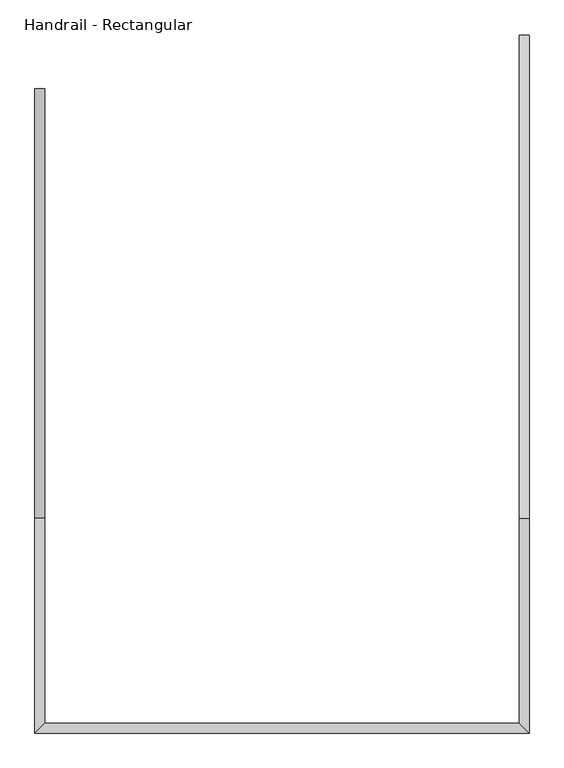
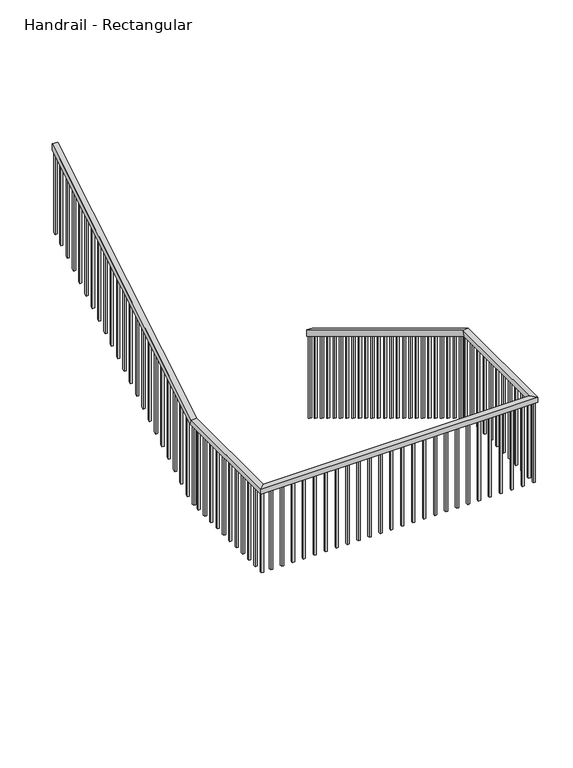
"""IFC4 building model written with IfcOpenShell, lengths in millimetres: railing geometry, Handrail - Rectangular."""

import ifcopenshell
import ifcopenshell.guid

model = None  # the IFC model being written
_history = None  # IfcOwnerHistory: only IFC2X3 demands one
_inside = {}  # id of a spatial element -> (the spatial element, [elements in it])
_under = {}  # id of a project, library or spatial element -> (it, [spatial elements below it])
_declared = {}  # id of a project -> (the project, [libraries it declares])
_typed = {}  # id of a type object -> (the type object, [elements of that type])
_made_of = {}  # id of a material, layer set ... -> (it, [elements and type objects made of it])


def new_model(schema):
    """Start an empty IFC model of exactly this schema.

    Asked for "IFC4X3", IfcOpenShell would pick the latest addendum, in which some entities
    have other attributes; the version numbers below select the first issue.
    IFC2X3 requires an IfcOwnerHistory on every rooted entity: one is made here for all.
    """
    global model, _history
    if schema == "IFC4X3":
        model = ifcopenshell.file(schema_version=(4, 3, 0, 0))
    else:
        model = ifcopenshell.file(schema=schema)
    _inside.clear()
    _under.clear()
    _declared.clear()
    _typed.clear()
    _made_of.clear()
    _history = None
    if model.schema == "IFC2X3":
        org = make("IfcOrganization", Name="unknown")
        user = make(
            "IfcPersonAndOrganization",
            ThePerson=make("IfcPerson", FamilyName="unknown"),
            TheOrganization=org,
        )
        app = make(
            "IfcApplication",
            ApplicationDeveloper=org,
            Version="unknown",
            ApplicationFullName="unknown",
            ApplicationIdentifier="unknown",
        )
        _history = make(
            "IfcOwnerHistory",
            OwningUser=user,
            OwningApplication=app,
            ChangeAction="ADDED",
            CreationDate=0,
        )
    return model


def make(cls, **values):
    """One entity of the class cls with the attributes given. An attribute that is None is left unset."""
    return model.create_entity(
        cls, **{name: value for name, value in values.items() if value is not None}
    )


def rooted(cls, **values):
    """An entity with a GlobalId (a new one), such as an element, a storey or a relation."""
    return make(cls, GlobalId=ifcopenshell.guid.new(), OwnerHistory=_history, **values)


def si_unit(unit_type, name, prefix=None):
    """IfcSIUnit, for example si_unit("LENGTHUNIT", "METRE", prefix="MILLI")."""
    return make("IfcSIUnit", UnitType=unit_type, Prefix=prefix, Name=name)


def assignment(units):
    """IfcUnitAssignment: the units of a project."""
    return None if units is None else make("IfcUnitAssignment", Units=units)


def point(xyz):
    """IfcCartesianPoint."""
    return None if xyz is None else make("IfcCartesianPoint", Coordinates=xyz)


def direction(xyz):
    """IfcDirection."""
    return None if xyz is None else make("IfcDirection", DirectionRatios=xyz)


def frame(location, z_axis=None, x_axis=None):
    """IfcAxis2Placement3D, a coordinate frame: its origin and axes. An axis left out is left unset."""
    return make(
        "IfcAxis2Placement3D",
        Location=point(location),
        Axis=direction(z_axis),
        RefDirection=direction(x_axis),
    )


def origin():
    """The frame at (0, 0, 0) with its axes left unset."""
    return frame((0.0, 0.0, 0.0))


def place(relative_to, where):
    """IfcLocalPlacement: puts the frame where relative to a parent placement (None: the world)."""
    return make(
        "IfcLocalPlacement", PlacementRelTo=relative_to, RelativePlacement=where
    )


def context(
    kind, dimensions, precision=None, world=None, true_north=None, identifier=None
):
    """IfcGeometricRepresentationContext, for example the 3D "Model" context."""
    return make(
        "IfcGeometricRepresentationContext",
        ContextIdentifier=identifier,
        ContextType=kind,
        CoordinateSpaceDimension=dimensions,
        Precision=precision,
        WorldCoordinateSystem=world,
        TrueNorth=true_north,
    )


def project(units=None, contexts=None):
    """IfcProject with its units and contexts."""
    return rooted(
        "IfcProject",
        Name="project",
        RepresentationContexts=contexts,
        UnitsInContext=assignment(units),
    )


def spatial(cls, under=None, at=None, **own):
    """A site, building, storey or space (cls), placed at a placement, below another one or the project."""
    s = rooted(cls, ObjectPlacement=at, **own)
    if under is not None:
        _under.setdefault(under.id(), (under, []))[1].append(s)
    return s


def polyline(points):
    """IfcPolyline through the points."""
    return make("IfcPolyline", Points=[point(p) for p in points])


def outline(outer, holes=None, kind="AREA"):
    """IfcArbitraryClosedProfileDef: a profile drawn as a closed curve; with holes, ...WithVoids."""
    if holes is None:
        return make("IfcArbitraryClosedProfileDef", ProfileType=kind, OuterCurve=outer)
    return make(
        "IfcArbitraryProfileDefWithVoids",
        ProfileType=kind,
        OuterCurve=outer,
        InnerCurves=holes,
    )


def extrude(swept, where, along, depth):
    """IfcExtrudedAreaSolid: the profile swept, set in the frame where, extruded along a direction by depth."""
    return make(
        "IfcExtrudedAreaSolid",
        SweptArea=swept,
        Position=where,
        ExtrudedDirection=direction(along),
        Depth=depth,
    )


def faces_of(points, faces, orient=None, outer=None):
    """IfcFace entities. A face is a list of loops; a loop is a list of indices into points, from 0.

    orient and outer hold one flag for each loop. By default every Orientation is true, the
    first loop of a face is its IfcFaceOuterBound and the others are IfcFaceBound.
    """
    made = []
    for i, loops in enumerate(faces):
        bounds = []
        for j, loop in enumerate(loops):
            is_outer = j == 0 if outer is None else outer[i][j]
            bounds.append(
                make(
                    "IfcFaceOuterBound" if is_outer else "IfcFaceBound",
                    Bound=make("IfcPolyLoop", Polygon=[points[k] for k in loop]),
                    Orientation=True if orient is None else orient[i][j],
                )
            )
        made.append(make("IfcFace", Bounds=bounds))
    return made


def faceted_brep(points, faces, orient=None, outer=None, voids=None):
    """IfcFacetedBrep: a solid bounded by flat faces; with voids (closed shells), ...WithVoids."""
    shared = [point(p) for p in points]
    hull = make("IfcClosedShell", CfsFaces=faces_of(shared, faces, orient, outer))
    if voids is None:
        return make("IfcFacetedBrep", Outer=hull)
    return make(
        "IfcFacetedBrepWithVoids",
        Outer=hull,
        Voids=[
            make(cls, CfsFaces=faces_of(shared, fs, o, b)) for cls, fs, o, b in voids
        ],
    )


def shape(context_of_items, identifier, shape_type, items):
    """IfcShapeRepresentation: the items that make up one representation, for example the "Body"."""
    return make(
        "IfcShapeRepresentation",
        ContextOfItems=context_of_items,
        RepresentationIdentifier=identifier,
        RepresentationType=shape_type,
        Items=items,
    )


def source(mapping_origin, context_of_items, identifier, shape_type, items):
    """IfcRepresentationMap: a shape defined once, which mapped items show again and again."""
    return make(
        "IfcRepresentationMap",
        MappingOrigin=mapping_origin,
        MappedRepresentation=shape(context_of_items, identifier, shape_type, items),
    )


def transform(
    local_origin,
    x_axis=None,
    y_axis=None,
    z_axis=None,
    scale=None,
    scale2=None,
    scale3=None,
    uniform=True,
):
    """IfcCartesianTransformationOperator3D, or its non-uniform kind. x_axis, y_axis, z_axis: its Axis1, 2, 3."""
    if uniform:
        return make(
            "IfcCartesianTransformationOperator3D",
            Axis1=direction(x_axis),
            Axis2=direction(y_axis),
            LocalOrigin=point(local_origin),
            Scale=scale,
            Axis3=direction(z_axis),
        )
    return make(
        "IfcCartesianTransformationOperator3DnonUniform",
        Axis1=direction(x_axis),
        Axis2=direction(y_axis),
        LocalOrigin=point(local_origin),
        Scale=scale,
        Axis3=direction(z_axis),
        Scale2=scale2,
        Scale3=scale3,
    )


def mapped(mapping_source, mapping_target):
    """IfcMappedItem: shows the shape of a source again, moved by a transform."""
    return make(
        "IfcMappedItem", MappingSource=mapping_source, MappingTarget=mapping_target
    )


def made_of(thing, what):
    """Note that an element or type object is made of a material, layer set ...; save() writes the relation."""
    if what is not None:
        _made_of.setdefault(what.id(), (what, []))[1].append(thing)
    return thing


def element(
    cls,
    number,
    at=None,
    inside=None,
    cuts=None,
    type_object=None,
    material=None,
    context=None,
    identifier="Body",
    shape_type=None,
    held_by="IfcProductDefinitionShape",
    body=None,
    shapes=None,
    **own,
):
    """One element of the class cls, such as IfcWall. Its Tag is "e" and its number.

    at: its placement. inside: the storey or other place that contains it. cuts: it is an
    opening in that element (IfcRelVoidsElement). A single representation is given by context,
    identifier, shape_type and body (its items); several are given by shapes. held_by: the class
    of the entity that holds the representations. save() writes the other relations.
    """
    e = rooted(cls, Tag="e%d" % number, ObjectPlacement=at, **own)
    if body is not None:
        shapes = [shape(context, identifier, shape_type, body)]
    if shapes is not None:
        e.Representation = make(held_by, Representations=shapes)
    if inside is not None:
        _inside.setdefault(inside.id(), (inside, []))[1].append(e)
    if cuts is not None:
        rooted(
            "IfcRelVoidsElement", RelatingBuildingElement=cuts, RelatedOpeningElement=e
        )
    if type_object is not None:
        _typed.setdefault(type_object.id(), (type_object, []))[1].append(e)
    return made_of(e, material)


def aggregate(whole, parts):
    """IfcRelAggregates: a whole, such as a stair, and the parts it consists of."""
    return rooted("IfcRelAggregates", RelatingObject=whole, RelatedObjects=parts)


def save(model, path):
    """Write the relations noted so far, then the file.

    IfcRelAggregates (storeys below a building ...), IfcRelContainedInSpatialStructure (elements
    in a storey), IfcRelDefinesByType, IfcRelAssociatesMaterial and IfcRelDeclares: one each for
    every whole, place, type object, material and project.
    """
    for whole, parts in _under.values():
        aggregate(whole, parts)
    for where, things in _inside.values():
        rooted(
            "IfcRelContainedInSpatialStructure",
            RelatedElements=things,
            RelatingStructure=where,
        )
    for kind, things in _typed.values():
        rooted("IfcRelDefinesByType", RelatedObjects=things, RelatingType=kind)
    for what, things in _made_of.values():
        rooted("IfcRelAssociatesMaterial", RelatedObjects=things, RelatingMaterial=what)
    for by, libraries in _declared.values():
        rooted("IfcRelDeclares", RelatingContext=by, RelatedDefinitions=libraries)
    model.write(path)


def handrail_rectangular_c728cfe4(model_context):
    return source(origin(), model_context, "Body", "SolidModel", [
        faceted_brep([(2862.9955133, -5400.0103492, -1964.2666667), (2862.9955133, -5400.0103492, -2023.6681269), (2812.1955133, -5400.0103492, -2023.6681269), (2812.1955133, -5400.0103492, -1964.2666667), (2812.1955133, -7914.6103492, -440.2666667), (2862.9955133, -7914.6103492, -440.2666667), (2812.1955133, -7928.8027586, -491.0666667), (2862.9955133, -7928.8027586, -491.0666667), (2812.1955133, -8981.4103492, -440.2666667), (2862.9955133, -9032.2103492, -440.2666667), (2812.1955133, -8981.4103492, -491.0666667), (2862.9955133, -9032.2103492, -491.0666667), (339.9474728, -8981.4103492, -440.2666667), (289.1474728, -9032.2103492, -440.2666667), (339.9474728, -8981.4103492, -491.0666667), (289.1474728, -9032.2103492, -491.0666667), (339.9474728, -7914.6103492, -440.2666667), (289.1474728, -7914.6103492, -440.2666667), (339.9474728, -7900.4179398, -491.0666667), (289.1474728, -7900.4179398, -491.0666667), (289.1474728, -5679.4103492, 914.4), (339.9474728, -5679.4103492, 914.4), (339.9474728, -5679.4103492, 854.9985397), (289.1474728, -5679.4103492, 854.9985397)], [[[0, 1, 2, 3]], [[0, 3, 4, 5]], [[3, 2, 6, 4]], [[2, 1, 7, 6]], [[1, 0, 5, 7]], [[5, 4, 8, 9]], [[4, 6, 10, 8]], [[6, 7, 11, 10]], [[7, 5, 9, 11]], [[9, 8, 12, 13]], [[8, 10, 14, 12]], [[10, 11, 15, 14]], [[11, 9, 13, 15]], [[13, 12, 16, 17]], [[12, 14, 18, 16]], [[14, 15, 19, 18]], [[15, 13, 17, 19]], [[20, 21, 22, 23]], [[17, 16, 21, 20]], [[16, 18, 22, 21]], [[18, 19, 23, 22]], [[19, 17, 20, 23]]]),
        extrude(outline(polyline([(-5771.4853492, 799.1955094), (-5771.4853492, -13.0218517), (-5790.5353492, -24.5673062), (-5790.5353492, 787.6500549), (-5771.4853492, 799.1955094)])), frame((305.0224728, 0.0, 0.0), z_axis=(1.0, 0.0, 0.0), x_axis=(0.0, 1.0, 0.0)), (0.0, 0.0, 1.0), 19.05),
        extrude(outline(polyline([(-5873.0853492, 737.6197519), (-5873.0853492, -74.5976092), (-5892.1353492, -86.1430638), (-5892.1353492, 726.0742973), (-5873.0853492, 737.6197519)])), frame((305.0224728, 0.0, 0.0), z_axis=(1.0, 0.0, 0.0), x_axis=(0.0, 1.0, 0.0)), (0.0, 0.0, 1.0), 19.05),
        extrude(outline(polyline([(-5974.6853492, 676.0439943), (-5974.6853492, -136.1733668), (-5993.7353492, -147.7188214), (-5993.7353492, 664.4985397), (-5974.6853492, 676.0439943)])), frame((305.0224728, 0.0, 0.0), z_axis=(1.0, 0.0, 0.0), x_axis=(0.0, 1.0, 0.0)), (0.0, 0.0, 1.0), 19.05),
        extrude(outline(polyline([(-6076.2853492, 614.4682367), (-6076.2853492, -197.7491244), (-6095.3353492, -209.2945789), (-6095.3353492, 602.9227822), (-6076.2853492, 614.4682367)])), frame((305.0224728, 0.0, 0.0), z_axis=(1.0, 0.0, 0.0), x_axis=(0.0, 1.0, 0.0)), (0.0, 0.0, 1.0), 19.05),
        extrude(outline(polyline([(-6177.8853492, 552.8924791), (-6177.8853492, -259.324882), (-6196.9353492, -270.8703365), (-6196.9353492, 541.3470246), (-6177.8853492, 552.8924791)])), frame((305.0224728, 0.0, 0.0), z_axis=(1.0, 0.0, 0.0), x_axis=(0.0, 1.0, 0.0)), (0.0, 0.0, 1.0), 19.05),
        extrude(outline(polyline([(-6279.4853492, 491.3167216), (-6279.4853492, -320.9006396), (-6298.5353492, -332.4460941), (-6298.5353492, 479.771267), (-6279.4853492, 491.3167216)])), frame((305.0224728, 0.0, 0.0), z_axis=(1.0, 0.0, 0.0), x_axis=(0.0, 1.0, 0.0)), (0.0, 0.0, 1.0), 19.05),
        extrude(outline(polyline([(-6381.0853492, 429.740964), (-6381.0853492, -382.4763971), (-6400.1353492, -394.0218517), (-6400.1353492, 418.1955094), (-6381.0853492, 429.740964)])), frame((305.0224728, 0.0, 0.0), z_axis=(1.0, 0.0, 0.0), x_axis=(0.0, 1.0, 0.0)), (0.0, 0.0, 1.0), 19.05),
        extrude(outline(polyline([(-6482.6853492, 368.1652064), (-6482.6853492, -444.0521547), (-6501.7353492, -455.5976092), (-6501.7353492, 356.6197519), (-6482.6853492, 368.1652064)])), frame((305.0224728, 0.0, 0.0), z_axis=(1.0, 0.0, 0.0), x_axis=(0.0, 1.0, 0.0)), (0.0, 0.0, 1.0), 19.05),
        extrude(outline(polyline([(-6584.2853492, 306.5894488), (-6584.2853492, -505.6279123), (-6603.3353492, -517.1733668), (-6603.3353492, 295.0439943), (-6584.2853492, 306.5894488)])), frame((305.0224728, 0.0, 0.0), z_axis=(1.0, 0.0, 0.0), x_axis=(0.0, 1.0, 0.0)), (0.0, 0.0, 1.0), 19.05),
        extrude(outline(polyline([(-6685.8853492, 245.0136913), (-6685.8853492, -567.2036699), (-6704.9353492, -578.7491244), (-6704.9353492, 233.4682367), (-6685.8853492, 245.0136913)])), frame((305.0224728, 0.0, 0.0), z_axis=(1.0, 0.0, 0.0), x_axis=(0.0, 1.0, 0.0)), (0.0, 0.0, 1.0), 19.05),
        extrude(outline(polyline([(-6787.4853492, 183.4379337), (-6787.4853492, -628.7794274), (-6806.5353492, -640.324882), (-6806.5353492, 171.8924791), (-6787.4853492, 183.4379337)])), frame((305.0224728, 0.0, 0.0), z_axis=(1.0, 0.0, 0.0), x_axis=(0.0, 1.0, 0.0)), (0.0, 0.0, 1.0), 19.05),
        extrude(outline(polyline([(-6889.0853492, 121.8621761), (-6889.0853492, -690.355185), (-6908.1353492, -701.9006396), (-6908.1353492, 110.3167216), (-6889.0853492, 121.8621761)])), frame((305.0224728, 0.0, 0.0), z_axis=(1.0, 0.0, 0.0), x_axis=(0.0, 1.0, 0.0)), (0.0, 0.0, 1.0), 19.05),
        extrude(outline(polyline([(-6990.6853492, 60.2864185), (-6990.6853492, -751.9309426), (-7009.7353492, -763.4763971), (-7009.7353492, 48.740964), (-6990.6853492, 60.2864185)])), frame((305.0224728, 0.0, 0.0), z_axis=(1.0, 0.0, 0.0), x_axis=(0.0, 1.0, 0.0)), (0.0, 0.0, 1.0), 19.05),
        extrude(outline(polyline([(-7092.2853492, -1.289339), (-7092.2853492, -813.5067002), (-7111.3353492, -825.0521547), (-7111.3353492, -12.8347936), (-7092.2853492, -1.289339)])), frame((305.0224728, 0.0, 0.0), z_axis=(1.0, 0.0, 0.0), x_axis=(0.0, 1.0, 0.0)), (0.0, 0.0, 1.0), 19.05),
        extrude(outline(polyline([(-7193.8853492, -62.8650966), (-7193.8853492, -875.0824577), (-7212.9353492, -886.6279123), (-7212.9353492, -74.4105512), (-7193.8853492, -62.8650966)])), frame((305.0224728, 0.0, 0.0), z_axis=(1.0, 0.0, 0.0), x_axis=(0.0, 1.0, 0.0)), (0.0, 0.0, 1.0), 19.05),
        extrude(outline(polyline([(-7295.4853492, -124.4408542), (-7295.4853492, -936.6582153), (-7314.5353492, -948.2036699), (-7314.5353492, -135.9863087), (-7295.4853492, -124.4408542)])), frame((305.0224728, 0.0, 0.0), z_axis=(1.0, 0.0, 0.0), x_axis=(0.0, 1.0, 0.0)), (0.0, 0.0, 1.0), 19.05),
        extrude(outline(polyline([(-7397.0853492, -186.0166118), (-7397.0853492, -998.2339729), (-7416.1353492, -1009.7794274), (-7416.1353492, -197.5620663), (-7397.0853492, -186.0166118)])), frame((305.0224728, 0.0, 0.0), z_axis=(1.0, 0.0, 0.0), x_axis=(0.0, 1.0, 0.0)), (0.0, 0.0, 1.0), 19.05),
        extrude(outline(polyline([(-7498.6853492, -247.5923693), (-7498.6853492, -1059.8097305), (-7517.7353492, -1071.355185), (-7517.7353492, -259.1378239), (-7498.6853492, -247.5923693)])), frame((305.0224728, 0.0, 0.0), z_axis=(1.0, 0.0, 0.0), x_axis=(0.0, 1.0, 0.0)), (0.0, 0.0, 1.0), 19.05),
        extrude(outline(polyline([(-7600.2853492, -309.1681269), (-7600.2853492, -1121.385488), (-7619.3353492, -1132.9309426), (-7619.3353492, -320.7135815), (-7600.2853492, -309.1681269)])), frame((305.0224728, 0.0, 0.0), z_axis=(1.0, 0.0, 0.0), x_axis=(0.0, 1.0, 0.0)), (0.0, 0.0, 1.0), 19.05),
        extrude(outline(polyline([(-7701.8853492, -370.7438845), (-7701.8853492, -1182.9612456), (-7720.9353492, -1194.5067002), (-7720.9353492, -382.289339), (-7701.8853492, -370.7438845)])), frame((305.0224728, 0.0, 0.0), z_axis=(1.0, 0.0, 0.0), x_axis=(0.0, 1.0, 0.0)), (0.0, 0.0, 1.0), 19.05),
        extrude(outline(polyline([(-7803.4853492, -432.3196421), (-7803.4853492, -1244.5370032), (-7822.5353492, -1256.0824577), (-7822.5353492, -443.8650966), (-7803.4853492, -432.3196421)])), frame((305.0224728, 0.0, 0.0), z_axis=(1.0, 0.0, 0.0), x_axis=(0.0, 1.0, 0.0)), (0.0, 0.0, 1.0), 19.05),
        extrude(outline(polyline([(305.0224728, -8000.3353492), (305.0224728, -7981.2853492), (324.0724728, -7981.2853492), (324.0724728, -8000.3353492), (305.0224728, -8000.3353492)])), frame((0.0, 0.0, -1278.4666667), z_axis=(0.0, 0.0, 1.0), x_axis=(1.0, 0.0, 0.0)), (0.0, 0.0, 1.0), 787.4),
        extrude(outline(polyline([(305.0224728, -8101.9353492), (305.0224728, -8082.8853492), (324.0724728, -8082.8853492), (324.0724728, -8101.9353492), (305.0224728, -8101.9353492)])), frame((0.0, 0.0, -1278.4666667), z_axis=(0.0, 0.0, 1.0), x_axis=(1.0, 0.0, 0.0)), (0.0, 0.0, 1.0), 787.4),
        extrude(outline(polyline([(305.0224728, -8203.5353492), (305.0224728, -8184.4853492), (324.0724728, -8184.4853492), (324.0724728, -8203.5353492), (305.0224728, -8203.5353492)])), frame((0.0, 0.0, -1278.4666667), z_axis=(0.0, 0.0, 1.0), x_axis=(1.0, 0.0, 0.0)), (0.0, 0.0, 1.0), 787.4),
        extrude(outline(polyline([(305.0224728, -8305.1353492), (305.0224728, -8286.0853492), (324.0724728, -8286.0853492), (324.0724728, -8305.1353492), (305.0224728, -8305.1353492)])), frame((0.0, 0.0, -1278.4666667), z_axis=(0.0, 0.0, 1.0), x_axis=(1.0, 0.0, 0.0)), (0.0, 0.0, 1.0), 787.4),
        extrude(outline(polyline([(305.0224728, -8406.7353492), (305.0224728, -8387.6853492), (324.0724728, -8387.6853492), (324.0724728, -8406.7353492), (305.0224728, -8406.7353492)])), frame((0.0, 0.0, -1278.4666667), z_axis=(0.0, 0.0, 1.0), x_axis=(1.0, 0.0, 0.0)), (0.0, 0.0, 1.0), 787.4),
        extrude(outline(polyline([(305.0224728, -8508.3353492), (305.0224728, -8489.2853492), (324.0724728, -8489.2853492), (324.0724728, -8508.3353492), (305.0224728, -8508.3353492)])), frame((0.0, 0.0, -1278.4666667), z_axis=(0.0, 0.0, 1.0), x_axis=(1.0, 0.0, 0.0)), (0.0, 0.0, 1.0), 787.4),
        extrude(outline(polyline([(305.0224728, -8609.9353492), (305.0224728, -8590.8853492), (324.0724728, -8590.8853492), (324.0724728, -8609.9353492), (305.0224728, -8609.9353492)])), frame((0.0, 0.0, -1278.4666667), z_axis=(0.0, 0.0, 1.0), x_axis=(1.0, 0.0, 0.0)), (0.0, 0.0, 1.0), 787.4),
        extrude(outline(polyline([(305.0224728, -8711.5353492), (305.0224728, -8692.4853492), (324.0724728, -8692.4853492), (324.0724728, -8711.5353492), (305.0224728, -8711.5353492)])), frame((0.0, 0.0, -1278.4666667), z_axis=(0.0, 0.0, 1.0), x_axis=(1.0, 0.0, 0.0)), (0.0, 0.0, 1.0), 787.4),
        extrude(outline(polyline([(305.0224728, -8813.1353492), (305.0224728, -8794.0853492), (324.0724728, -8794.0853492), (324.0724728, -8813.1353492), (305.0224728, -8813.1353492)])), frame((0.0, 0.0, -1278.4666667), z_axis=(0.0, 0.0, 1.0), x_axis=(1.0, 0.0, 0.0)), (0.0, 0.0, 1.0), 787.4),
        extrude(outline(polyline([(305.0224728, -8914.7353492), (305.0224728, -8895.6853492), (324.0724728, -8895.6853492), (324.0724728, -8914.7353492), (305.0224728, -8914.7353492)])), frame((0.0, 0.0, -1278.4666667), z_axis=(0.0, 0.0, 1.0), x_axis=(1.0, 0.0, 0.0)), (0.0, 0.0, 1.0), 787.4),
        extrude(outline(polyline([(408.7205133, -9016.3353492), (389.6705133, -9016.3353492), (389.6705133, -8997.2853492), (408.7205133, -8997.2853492), (408.7205133, -9016.3353492)])), frame((0.0, 0.0, -1278.4666667), z_axis=(0.0, 0.0, 1.0), x_axis=(1.0, 0.0, 0.0)), (0.0, 0.0, 1.0), 787.4),
        extrude(outline(polyline([(510.3205133, -9016.3353492), (491.2705133, -9016.3353492), (491.2705133, -8997.2853492), (510.3205133, -8997.2853492), (510.3205133, -9016.3353492)])), frame((0.0, 0.0, -1278.4666667), z_axis=(0.0, 0.0, 1.0), x_axis=(1.0, 0.0, 0.0)), (0.0, 0.0, 1.0), 787.4),
        extrude(outline(polyline([(611.9205133, -9016.3353492), (592.8705133, -9016.3353492), (592.8705133, -8997.2853492), (611.9205133, -8997.2853492), (611.9205133, -9016.3353492)])), frame((0.0, 0.0, -1278.4666667), z_axis=(0.0, 0.0, 1.0), x_axis=(1.0, 0.0, 0.0)), (0.0, 0.0, 1.0), 787.4),
        extrude(outline(polyline([(713.5205133, -9016.3353492), (694.4705133, -9016.3353492), (694.4705133, -8997.2853492), (713.5205133, -8997.2853492), (713.5205133, -9016.3353492)])), frame((0.0, 0.0, -1278.4666667), z_axis=(0.0, 0.0, 1.0), x_axis=(1.0, 0.0, 0.0)), (0.0, 0.0, 1.0), 787.4),
        extrude(outline(polyline([(815.1205133, -9016.3353492), (796.0705133, -9016.3353492), (796.0705133, -8997.2853492), (815.1205133, -8997.2853492), (815.1205133, -9016.3353492)])), frame((0.0, 0.0, -1278.4666667), z_axis=(0.0, 0.0, 1.0), x_axis=(1.0, 0.0, 0.0)), (0.0, 0.0, 1.0), 787.4),
        extrude(outline(polyline([(916.7205133, -9016.3353492), (897.6705133, -9016.3353492), (897.6705133, -8997.2853492), (916.7205133, -8997.2853492), (916.7205133, -9016.3353492)])), frame((0.0, 0.0, -1278.4666667), z_axis=(0.0, 0.0, 1.0), x_axis=(1.0, 0.0, 0.0)), (0.0, 0.0, 1.0), 787.4),
        extrude(outline(polyline([(1018.3205133, -9016.3353492), (999.2705133, -9016.3353492), (999.2705133, -8997.2853492), (1018.3205133, -8997.2853492), (1018.3205133, -9016.3353492)])), frame((0.0, 0.0, -1278.4666667), z_axis=(0.0, 0.0, 1.0), x_axis=(1.0, 0.0, 0.0)), (0.0, 0.0, 1.0), 787.4),
        extrude(outline(polyline([(1119.9205133, -9016.3353492), (1100.8705133, -9016.3353492), (1100.8705133, -8997.2853492), (1119.9205133, -8997.2853492), (1119.9205133, -9016.3353492)])), frame((0.0, 0.0, -1278.4666667), z_axis=(0.0, 0.0, 1.0), x_axis=(1.0, 0.0, 0.0)), (0.0, 0.0, 1.0), 787.4),
        extrude(outline(polyline([(1221.5205133, -9016.3353492), (1202.4705133, -9016.3353492), (1202.4705133, -8997.2853492), (1221.5205133, -8997.2853492), (1221.5205133, -9016.3353492)])), frame((0.0, 0.0, -1278.4666667), z_axis=(0.0, 0.0, 1.0), x_axis=(1.0, 0.0, 0.0)), (0.0, 0.0, 1.0), 787.4),
        extrude(outline(polyline([(1323.1205133, -9016.3353492), (1304.0705133, -9016.3353492), (1304.0705133, -8997.2853492), (1323.1205133, -8997.2853492), (1323.1205133, -9016.3353492)])), frame((0.0, 0.0, -1278.4666667), z_axis=(0.0, 0.0, 1.0), x_axis=(1.0, 0.0, 0.0)), (0.0, 0.0, 1.0), 787.4),
        extrude(outline(polyline([(1424.7205133, -9016.3353492), (1405.6705133, -9016.3353492), (1405.6705133, -8997.2853492), (1424.7205133, -8997.2853492), (1424.7205133, -9016.3353492)])), frame((0.0, 0.0, -1278.4666667), z_axis=(0.0, 0.0, 1.0), x_axis=(1.0, 0.0, 0.0)), (0.0, 0.0, 1.0), 787.4),
        extrude(outline(polyline([(1526.3205133, -9016.3353492), (1507.2705133, -9016.3353492), (1507.2705133, -8997.2853492), (1526.3205133, -8997.2853492), (1526.3205133, -9016.3353492)])), frame((0.0, 0.0, -1278.4666667), z_axis=(0.0, 0.0, 1.0), x_axis=(1.0, 0.0, 0.0)), (0.0, 0.0, 1.0), 787.4),
        extrude(outline(polyline([(1627.9205133, -9016.3353492), (1608.8705133, -9016.3353492), (1608.8705133, -8997.2853492), (1627.9205133, -8997.2853492), (1627.9205133, -9016.3353492)])), frame((0.0, 0.0, -1278.4666667), z_axis=(0.0, 0.0, 1.0), x_axis=(1.0, 0.0, 0.0)), (0.0, 0.0, 1.0), 787.4),
        extrude(outline(polyline([(1729.5205133, -9016.3353492), (1710.4705133, -9016.3353492), (1710.4705133, -8997.2853492), (1729.5205133, -8997.2853492), (1729.5205133, -9016.3353492)])), frame((0.0, 0.0, -1278.4666667), z_axis=(0.0, 0.0, 1.0), x_axis=(1.0, 0.0, 0.0)), (0.0, 0.0, 1.0), 787.4),
        extrude(outline(polyline([(1831.1205133, -9016.3353492), (1812.0705133, -9016.3353492), (1812.0705133, -8997.2853492), (1831.1205133, -8997.2853492), (1831.1205133, -9016.3353492)])), frame((0.0, 0.0, -1278.4666667), z_axis=(0.0, 0.0, 1.0), x_axis=(1.0, 0.0, 0.0)), (0.0, 0.0, 1.0), 787.4),
        extrude(outline(polyline([(1932.7205133, -9016.3353492), (1913.6705133, -9016.3353492), (1913.6705133, -8997.2853492), (1932.7205133, -8997.2853492), (1932.7205133, -9016.3353492)])), frame((0.0, 0.0, -1278.4666667), z_axis=(0.0, 0.0, 1.0), x_axis=(1.0, 0.0, 0.0)), (0.0, 0.0, 1.0), 787.4),
        extrude(outline(polyline([(2034.3205133, -9016.3353492), (2015.2705133, -9016.3353492), (2015.2705133, -8997.2853492), (2034.3205133, -8997.2853492), (2034.3205133, -9016.3353492)])), frame((0.0, 0.0, -1278.4666667), z_axis=(0.0, 0.0, 1.0), x_axis=(1.0, 0.0, 0.0)), (0.0, 0.0, 1.0), 787.4),
        extrude(outline(polyline([(2135.9205133, -9016.3353492), (2116.8705133, -9016.3353492), (2116.8705133, -8997.2853492), (2135.9205133, -8997.2853492), (2135.9205133, -9016.3353492)])), frame((0.0, 0.0, -1278.4666667), z_axis=(0.0, 0.0, 1.0), x_axis=(1.0, 0.0, 0.0)), (0.0, 0.0, 1.0), 787.4),
        extrude(outline(polyline([(2237.5205133, -9016.3353492), (2218.4705133, -9016.3353492), (2218.4705133, -8997.2853492), (2237.5205133, -8997.2853492), (2237.5205133, -9016.3353492)])), frame((0.0, 0.0, -1278.4666667), z_axis=(0.0, 0.0, 1.0), x_axis=(1.0, 0.0, 0.0)), (0.0, 0.0, 1.0), 787.4),
        extrude(outline(polyline([(2339.1205133, -9016.3353492), (2320.0705133, -9016.3353492), (2320.0705133, -8997.2853492), (2339.1205133, -8997.2853492), (2339.1205133, -9016.3353492)])), frame((0.0, 0.0, -1278.4666667), z_axis=(0.0, 0.0, 1.0), x_axis=(1.0, 0.0, 0.0)), (0.0, 0.0, 1.0), 787.4),
        extrude(outline(polyline([(2440.7205133, -9016.3353492), (2421.6705133, -9016.3353492), (2421.6705133, -8997.2853492), (2440.7205133, -8997.2853492), (2440.7205133, -9016.3353492)])), frame((0.0, 0.0, -1278.4666667), z_axis=(0.0, 0.0, 1.0), x_axis=(1.0, 0.0, 0.0)), (0.0, 0.0, 1.0), 787.4),
        extrude(outline(polyline([(2542.3205133, -9016.3353492), (2523.2705133, -9016.3353492), (2523.2705133, -8997.2853492), (2542.3205133, -8997.2853492), (2542.3205133, -9016.3353492)])), frame((0.0, 0.0, -1278.4666667), z_axis=(0.0, 0.0, 1.0), x_axis=(1.0, 0.0, 0.0)), (0.0, 0.0, 1.0), 787.4),
        extrude(outline(polyline([(2643.9205133, -9016.3353492), (2624.8705133, -9016.3353492), (2624.8705133, -8997.2853492), (2643.9205133, -8997.2853492), (2643.9205133, -9016.3353492)])), frame((0.0, 0.0, -1278.4666667), z_axis=(0.0, 0.0, 1.0), x_axis=(1.0, 0.0, 0.0)), (0.0, 0.0, 1.0), 787.4),
        extrude(outline(polyline([(2745.5205133, -9016.3353492), (2726.4705133, -9016.3353492), (2726.4705133, -8997.2853492), (2745.5205133, -8997.2853492), (2745.5205133, -9016.3353492)])), frame((0.0, 0.0, -1278.4666667), z_axis=(0.0, 0.0, 1.0), x_axis=(1.0, 0.0, 0.0)), (0.0, 0.0, 1.0), 787.4),
        extrude(outline(polyline([(2847.1205133, -8921.0853492), (2847.1205133, -8940.1353492), (2828.0705133, -8940.1353492), (2828.0705133, -8921.0853492), (2847.1205133, -8921.0853492)])), frame((0.0, 0.0, -1278.4666667), z_axis=(0.0, 0.0, 1.0), x_axis=(1.0, 0.0, 0.0)), (0.0, 0.0, 1.0), 787.4),
        extrude(outline(polyline([(2847.1205133, -8819.4853492), (2847.1205133, -8838.5353492), (2828.0705133, -8838.5353492), (2828.0705133, -8819.4853492), (2847.1205133, -8819.4853492)])), frame((0.0, 0.0, -1278.4666667), z_axis=(0.0, 0.0, 1.0), x_axis=(1.0, 0.0, 0.0)), (0.0, 0.0, 1.0), 787.4),
        extrude(outline(polyline([(2847.1205133, -8717.8853492), (2847.1205133, -8736.9353492), (2828.0705133, -8736.9353492), (2828.0705133, -8717.8853492), (2847.1205133, -8717.8853492)])), frame((0.0, 0.0, -1278.4666667), z_axis=(0.0, 0.0, 1.0), x_axis=(1.0, 0.0, 0.0)), (0.0, 0.0, 1.0), 787.4),
        extrude(outline(polyline([(2847.1205133, -8616.2853492), (2847.1205133, -8635.3353492), (2828.0705133, -8635.3353492), (2828.0705133, -8616.2853492), (2847.1205133, -8616.2853492)])), frame((0.0, 0.0, -1278.4666667), z_axis=(0.0, 0.0, 1.0), x_axis=(1.0, 0.0, 0.0)), (0.0, 0.0, 1.0), 787.4),
        extrude(outline(polyline([(2847.1205133, -8514.6853492), (2847.1205133, -8533.7353492), (2828.0705133, -8533.7353492), (2828.0705133, -8514.6853492), (2847.1205133, -8514.6853492)])), frame((0.0, 0.0, -1278.4666667), z_axis=(0.0, 0.0, 1.0), x_axis=(1.0, 0.0, 0.0)), (0.0, 0.0, 1.0), 787.4),
        extrude(outline(polyline([(2847.1205133, -8413.0853492), (2847.1205133, -8432.1353492), (2828.0705133, -8432.1353492), (2828.0705133, -8413.0853492), (2847.1205133, -8413.0853492)])), frame((0.0, 0.0, -1278.4666667), z_axis=(0.0, 0.0, 1.0), x_axis=(1.0, 0.0, 0.0)), (0.0, 0.0, 1.0), 787.4),
        extrude(outline(polyline([(2847.1205133, -8311.4853492), (2847.1205133, -8330.5353492), (2828.0705133, -8330.5353492), (2828.0705133, -8311.4853492), (2847.1205133, -8311.4853492)])), frame((0.0, 0.0, -1278.4666667), z_axis=(0.0, 0.0, 1.0), x_axis=(1.0, 0.0, 0.0)), (0.0, 0.0, 1.0), 787.4),
        extrude(outline(polyline([(2847.1205133, -8209.8853492), (2847.1205133, -8228.9353492), (2828.0705133, -8228.9353492), (2828.0705133, -8209.8853492), (2847.1205133, -8209.8853492)])), frame((0.0, 0.0, -1278.4666667), z_axis=(0.0, 0.0, 1.0), x_axis=(1.0, 0.0, 0.0)), (0.0, 0.0, 1.0), 787.4),
        extrude(outline(polyline([(2847.1205133, -8108.2853492), (2847.1205133, -8127.3353492), (2828.0705133, -8127.3353492), (2828.0705133, -8108.2853492), (2847.1205133, -8108.2853492)])), frame((0.0, 0.0, -1278.4666667), z_axis=(0.0, 0.0, 1.0), x_axis=(1.0, 0.0, 0.0)), (0.0, 0.0, 1.0), 787.4),
        extrude(outline(polyline([(2847.1205133, -8006.6853492), (2847.1205133, -8025.7353492), (2828.0705133, -8025.7353492), (2828.0705133, -8006.6853492), (2847.1205133, -8006.6853492)])), frame((0.0, 0.0, -1278.4666667), z_axis=(0.0, 0.0, 1.0), x_axis=(1.0, 0.0, 0.0)), (0.0, 0.0, 1.0), 787.4),
        extrude(outline(polyline([(-7828.8853492, -551.6226724), (-7828.8853492, -1363.8400335), (-7847.9353492, -1352.2945789), (-7847.9353492, -540.0772178), (-7828.8853492, -551.6226724)])), frame((2828.0705133, 0.0, 0.0), z_axis=(1.0, 0.0, 0.0), x_axis=(0.0, 1.0, 0.0)), (0.0, 0.0, 1.0), 19.05),
        extrude(outline(polyline([(-7727.2853492, -613.19843), (-7727.2853492, -1425.4157911), (-7746.3353492, -1413.8703365), (-7746.3353492, -601.6529754), (-7727.2853492, -613.19843)])), frame((2828.0705133, 0.0, 0.0), z_axis=(1.0, 0.0, 0.0), x_axis=(0.0, 1.0, 0.0)), (0.0, 0.0, 1.0), 19.05),
        extrude(outline(polyline([(-7625.6853492, -674.7741875), (-7625.6853492, -1486.9915486), (-7644.7353492, -1475.4460941), (-7644.7353492, -663.228733), (-7625.6853492, -674.7741875)])), frame((2828.0705133, 0.0, 0.0), z_axis=(1.0, 0.0, 0.0), x_axis=(0.0, 1.0, 0.0)), (0.0, 0.0, 1.0), 19.05),
        extrude(outline(polyline([(-7524.0853492, -736.3499451), (-7524.0853492, -1548.5673062), (-7543.1353492, -1537.0218517), (-7543.1353492, -724.8044906), (-7524.0853492, -736.3499451)])), frame((2828.0705133, 0.0, 0.0), z_axis=(1.0, 0.0, 0.0), x_axis=(0.0, 1.0, 0.0)), (0.0, 0.0, 1.0), 19.05),
        extrude(outline(polyline([(-7422.4853492, -797.9257027), (-7422.4853492, -1610.1430638), (-7441.5353492, -1598.5976092), (-7441.5353492, -786.3802481), (-7422.4853492, -797.9257027)])), frame((2828.0705133, 0.0, 0.0), z_axis=(1.0, 0.0, 0.0), x_axis=(0.0, 1.0, 0.0)), (0.0, 0.0, 1.0), 19.05),
        extrude(outline(polyline([(-7320.8853492, -859.5014603), (-7320.8853492, -1671.7188214), (-7339.9353492, -1660.1733668), (-7339.9353492, -847.9560057), (-7320.8853492, -859.5014603)])), frame((2828.0705133, 0.0, 0.0), z_axis=(1.0, 0.0, 0.0), x_axis=(0.0, 1.0, 0.0)), (0.0, 0.0, 1.0), 19.05),
        extrude(outline(polyline([(-7219.2853492, -921.0772178), (-7219.2853492, -1733.2945789), (-7238.3353492, -1721.7491244), (-7238.3353492, -909.5317633), (-7219.2853492, -921.0772178)])), frame((2828.0705133, 0.0, 0.0), z_axis=(1.0, 0.0, 0.0), x_axis=(0.0, 1.0, 0.0)), (0.0, 0.0, 1.0), 19.05),
        extrude(outline(polyline([(-7117.6853492, -982.6529754), (-7117.6853492, -1794.8703365), (-7136.7353492, -1783.324882), (-7136.7353492, -971.1075209), (-7117.6853492, -982.6529754)])), frame((2828.0705133, 0.0, 0.0), z_axis=(1.0, 0.0, 0.0), x_axis=(0.0, 1.0, 0.0)), (0.0, 0.0, 1.0), 19.05),
        extrude(outline(polyline([(-7016.0853492, -1044.228733), (-7016.0853492, -1856.4460941), (-7035.1353492, -1844.9006396), (-7035.1353492, -1032.6832784), (-7016.0853492, -1044.228733)])), frame((2828.0705133, 0.0, 0.0), z_axis=(1.0, 0.0, 0.0), x_axis=(0.0, 1.0, 0.0)), (0.0, 0.0, 1.0), 19.05),
        extrude(outline(polyline([(-6914.4853492, -1105.8044906), (-6914.4853492, -1918.0218517), (-6933.5353492, -1906.4763971), (-6933.5353492, -1094.259036), (-6914.4853492, -1105.8044906)])), frame((2828.0705133, 0.0, 0.0), z_axis=(1.0, 0.0, 0.0), x_axis=(0.0, 1.0, 0.0)), (0.0, 0.0, 1.0), 19.05),
        extrude(outline(polyline([(-6812.8853492, -1167.3802481), (-6812.8853492, -1979.5976092), (-6831.9353492, -1968.0521547), (-6831.9353492, -1155.8347936), (-6812.8853492, -1167.3802481)])), frame((2828.0705133, 0.0, 0.0), z_axis=(1.0, 0.0, 0.0), x_axis=(0.0, 1.0, 0.0)), (0.0, 0.0, 1.0), 19.05),
        extrude(outline(polyline([(-6711.2853492, -1228.9560057), (-6711.2853492, -2041.1733668), (-6730.3353492, -2029.6279123), (-6730.3353492, -1217.4105512), (-6711.2853492, -1228.9560057)])), frame((2828.0705133, 0.0, 0.0), z_axis=(1.0, 0.0, 0.0), x_axis=(0.0, 1.0, 0.0)), (0.0, 0.0, 1.0), 19.05),
        extrude(outline(polyline([(-6609.6853492, -1290.5317633), (-6609.6853492, -2102.7491244), (-6628.7353492, -2091.2036699), (-6628.7353492, -1278.9863087), (-6609.6853492, -1290.5317633)])), frame((2828.0705133, 0.0, 0.0), z_axis=(1.0, 0.0, 0.0), x_axis=(0.0, 1.0, 0.0)), (0.0, 0.0, 1.0), 19.05),
        extrude(outline(polyline([(-6508.0853492, -1352.1075209), (-6508.0853492, -2164.324882), (-6527.1353492, -2152.7794274), (-6527.1353492, -1340.5620663), (-6508.0853492, -1352.1075209)])), frame((2828.0705133, 0.0, 0.0), z_axis=(1.0, 0.0, 0.0), x_axis=(0.0, 1.0, 0.0)), (0.0, 0.0, 1.0), 19.05),
        extrude(outline(polyline([(-6406.4853492, -1413.6832784), (-6406.4853492, -2225.9006396), (-6425.5353492, -2214.355185), (-6425.5353492, -1402.1378239), (-6406.4853492, -1413.6832784)])), frame((2828.0705133, 0.0, 0.0), z_axis=(1.0, 0.0, 0.0), x_axis=(0.0, 1.0, 0.0)), (0.0, 0.0, 1.0), 19.05),
        extrude(outline(polyline([(-6304.8853492, -1475.259036), (-6304.8853492, -2287.4763971), (-6323.9353492, -2275.9309426), (-6323.9353492, -1463.7135815), (-6304.8853492, -1475.259036)])), frame((2828.0705133, 0.0, 0.0), z_axis=(1.0, 0.0, 0.0), x_axis=(0.0, 1.0, 0.0)), (0.0, 0.0, 1.0), 19.05),
        extrude(outline(polyline([(-6203.2853492, -1536.8347936), (-6203.2853492, -2349.0521547), (-6222.3353492, -2337.5067002), (-6222.3353492, -1525.289339), (-6203.2853492, -1536.8347936)])), frame((2828.0705133, 0.0, 0.0), z_axis=(1.0, 0.0, 0.0), x_axis=(0.0, 1.0, 0.0)), (0.0, 0.0, 1.0), 19.05),
        extrude(outline(polyline([(-6101.6853492, -1598.4105512), (-6101.6853492, -2410.6279123), (-6120.7353492, -2399.0824577), (-6120.7353492, -1586.8650966), (-6101.6853492, -1598.4105512)])), frame((2828.0705133, 0.0, 0.0), z_axis=(1.0, 0.0, 0.0), x_axis=(0.0, 1.0, 0.0)), (0.0, 0.0, 1.0), 19.05),
        extrude(outline(polyline([(-6000.0853492, -1659.9863087), (-6000.0853492, -2472.2036699), (-6019.1353492, -2460.6582153), (-6019.1353492, -1648.4408542), (-6000.0853492, -1659.9863087)])), frame((2828.0705133, 0.0, 0.0), z_axis=(1.0, 0.0, 0.0), x_axis=(0.0, 1.0, 0.0)), (0.0, 0.0, 1.0), 19.05),
        extrude(outline(polyline([(-5898.4853492, -1721.5620663), (-5898.4853492, -2533.7794274), (-5917.5353492, -2522.2339729), (-5917.5353492, -1710.0166118), (-5898.4853492, -1721.5620663)])), frame((2828.0705133, 0.0, 0.0), z_axis=(1.0, 0.0, 0.0), x_axis=(0.0, 1.0, 0.0)), (0.0, 0.0, 1.0), 19.05),
        extrude(outline(polyline([(-5796.8853492, -1783.1378239), (-5796.8853492, -2595.355185), (-5815.9353492, -2583.8097305), (-5815.9353492, -1771.5923693), (-5796.8853492, -1783.1378239)])), frame((2828.0705133, 0.0, 0.0), z_axis=(1.0, 0.0, 0.0), x_axis=(0.0, 1.0, 0.0)), (0.0, 0.0, 1.0), 19.05),
        extrude(outline(polyline([(-5695.2853492, -1844.7135815), (-5695.2853492, -2656.9309426), (-5714.3353492, -2645.385488), (-5714.3353492, -1833.1681269), (-5695.2853492, -1844.7135815)])), frame((2828.0705133, 0.0, 0.0), z_axis=(1.0, 0.0, 0.0), x_axis=(0.0, 1.0, 0.0)), (0.0, 0.0, 1.0), 19.05),
        extrude(outline(polyline([(-5593.6853492, -1906.289339), (-5593.6853492, -2718.5067002), (-5612.7353492, -2706.9612456), (-5612.7353492, -1894.7438845), (-5593.6853492, -1906.289339)])), frame((2828.0705133, 0.0, 0.0), z_axis=(1.0, 0.0, 0.0), x_axis=(0.0, 1.0, 0.0)), (0.0, 0.0, 1.0), 19.05),
        extrude(outline(polyline([(-5492.0853492, -1967.8650966), (-5492.0853492, -2780.0824577), (-5511.1353492, -2768.5370032), (-5511.1353492, -1956.3196421), (-5492.0853492, -1967.8650966)])), frame((2828.0705133, 0.0, 0.0), z_axis=(1.0, 0.0, 0.0), x_axis=(0.0, 1.0, 0.0)), (0.0, 0.0, 1.0), 19.05),
        extrude(outline(polyline([(-7905.0853492, -493.8953996), (-7905.0853492, -1278.4666667), (-7924.1353492, -1278.4666667), (-7924.1353492, -505.4408542), (-7905.0853492, -493.8953996)])), frame((305.0224728, 0.0, 0.0), z_axis=(1.0, 0.0, 0.0), x_axis=(0.0, 1.0, 0.0)), (0.0, 0.0, 1.0), 19.05),
        extrude(outline(polyline([(324.0724728, -9016.3353492), (305.0224728, -9016.3353492), (305.0224728, -8997.2853492), (324.0724728, -8997.2853492), (324.0724728, -9016.3353492)])), frame((0.0, 0.0, -1278.4666667), z_axis=(0.0, 0.0, 1.0), x_axis=(1.0, 0.0, 0.0)), (0.0, 0.0, 1.0), 787.4),
        extrude(outline(polyline([(2847.1205133, -8997.2853492), (2847.1205133, -9016.3353492), (2828.0705133, -9016.3353492), (2828.0705133, -8997.2853492), (2847.1205133, -8997.2853492)])), frame((0.0, 0.0, -1278.4666667), z_axis=(0.0, 0.0, 1.0), x_axis=(1.0, 0.0, 0.0)), (0.0, 0.0, 1.0), 787.4),
        extrude(outline(polyline([(-7905.0853492, -505.4408542), (-7905.0853492, -1317.6582153), (-7924.1353492, -1306.1127608), (-7924.1353492, -493.8953996), (-7905.0853492, -505.4408542)])), frame((2828.0705133, 0.0, 0.0), z_axis=(1.0, 0.0, 0.0), x_axis=(0.0, 1.0, 0.0)), (0.0, 0.0, 1.0), 19.05),
        extrude(outline(polyline([(-5679.4103492, 854.9985397), (-5679.4103492, 42.7811786), (-5698.4603492, 31.2357241), (-5698.4603492, 843.4530852), (-5679.4103492, 854.9985397)])), frame((305.0224728, 0.0, 0.0), z_axis=(1.0, 0.0, 0.0), x_axis=(0.0, 1.0, 0.0)), (0.0, 0.0, 1.0), 19.05),
        extrude(outline(polyline([(-5400.0103492, -2023.6681269), (-5400.0103492, -2835.885488), (-5419.0603492, -2824.3400335), (-5419.0603492, -2012.1226724), (-5400.0103492, -2023.6681269)])), frame((2828.0705133, 0.0, 0.0), z_axis=(1.0, 0.0, 0.0), x_axis=(0.0, 1.0, 0.0)), (0.0, 0.0, 1.0), 19.05),
    ])


if __name__ == "__main__":
    model = new_model("IFC4")
    model_context = context("Model", 3, world=origin())
    ifc_project = project(units=[si_unit("LENGTHUNIT", "METRE", prefix="MILLI")], contexts=[model_context])
    site = spatial("IfcSite", under=ifc_project)
    building = spatial("IfcBuilding", under=site)
    placement = place(None, origin())
    handrail_rectangular_shape = handrail_rectangular_c728cfe4(model_context)
    element("IfcRailing", 1, ObjectType="Handrail - Rectangular", at=placement, inside=building, context=model_context, shape_type="MappedRepresentation", body=[
        mapped(handrail_rectangular_shape, transform((0.0, 0.0, 0.0), x_axis=(1.0, 0.0, 0.0), y_axis=(0.0, 1.0, 0.0), z_axis=(0.0, 0.0, 1.0))),
    ])
    save(model, "model.ifc")
